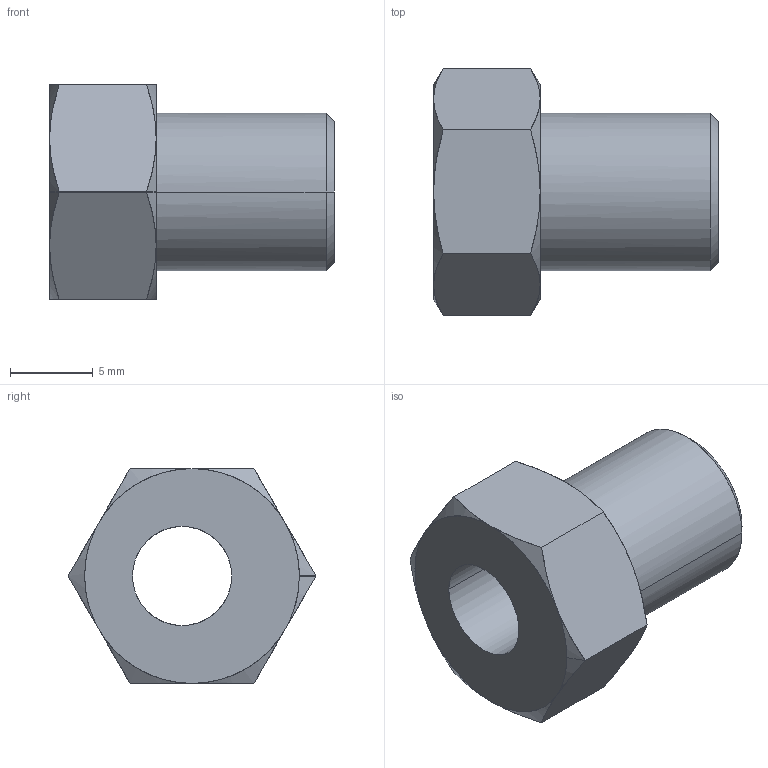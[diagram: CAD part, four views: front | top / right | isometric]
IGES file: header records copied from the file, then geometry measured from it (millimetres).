
Global section: file name: No Iges File Name specified; native system: AutoDesk Inventor R11.0; preprocessor: AutoDesk Inventor Iges Exporter R11.0; author: No Author specified; organization: No Organization specified; date: 20150221.141401; units: millimetre
Bounding box: 17.24 x 15.01 x 13 mm (x, y, z)
Surface area: 1151.5 mm2 (no closed solid volume)
Topology: 0 solids, 0 shells, 29 faces, 142 edges, 142 vertices
Faces by surface type: bspline 29
